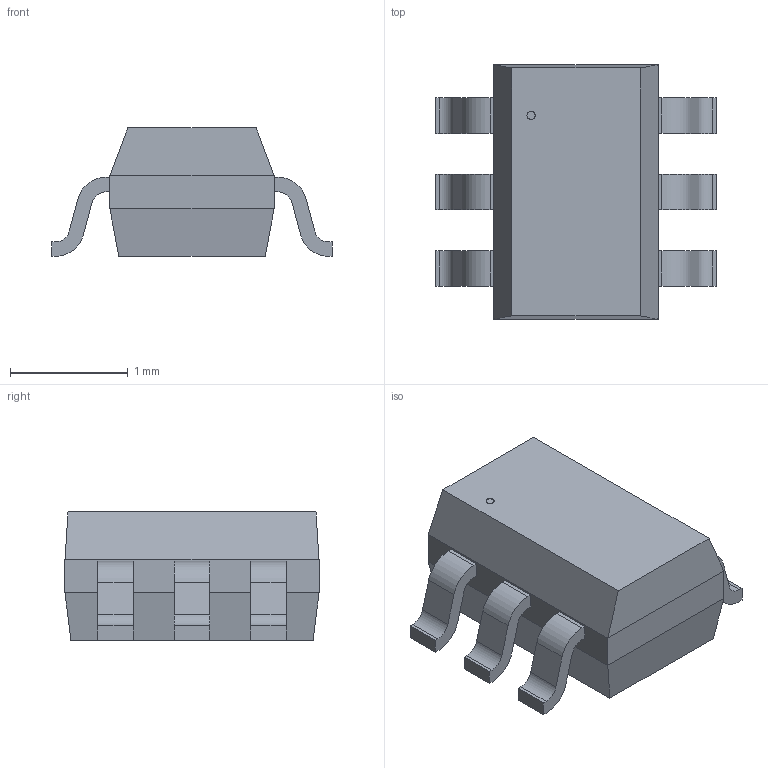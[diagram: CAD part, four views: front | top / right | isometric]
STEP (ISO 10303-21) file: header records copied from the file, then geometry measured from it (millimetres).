
FILE_DESCRIPTION(('STEP AP214'),'1');
FILE_NAME('DCK6_TEX-L','2020-10-18T21:53:34',(''),(''),'','','');
FILE_SCHEMA(('AUTOMOTIVE_DESIGN'));
Length unit declared in the file: millimetre
Products named in the file (1): product
Bounding box: 2.39 x 2.16 x 1.09 mm (x, y, z)
Volume: 3.2 mm3; surface area: 17.3 mm2
Topology: 8 solids, 8 shells, 101 faces, 247 edges, 162 vertices
Faces by surface type: plane 76, cylinder 25
Full cylindrical faces by diameter (mm): 0.07 x1
Entity records: 2864 total; most frequent: DIRECTION 502, ORIENTED_EDGE 492, CARTESIAN_POINT 291, EDGE_CURVE 246, LINE 196, VECTOR 196, VERTEX_POINT 162, AXIS2_PLACEMENT_3D 153
